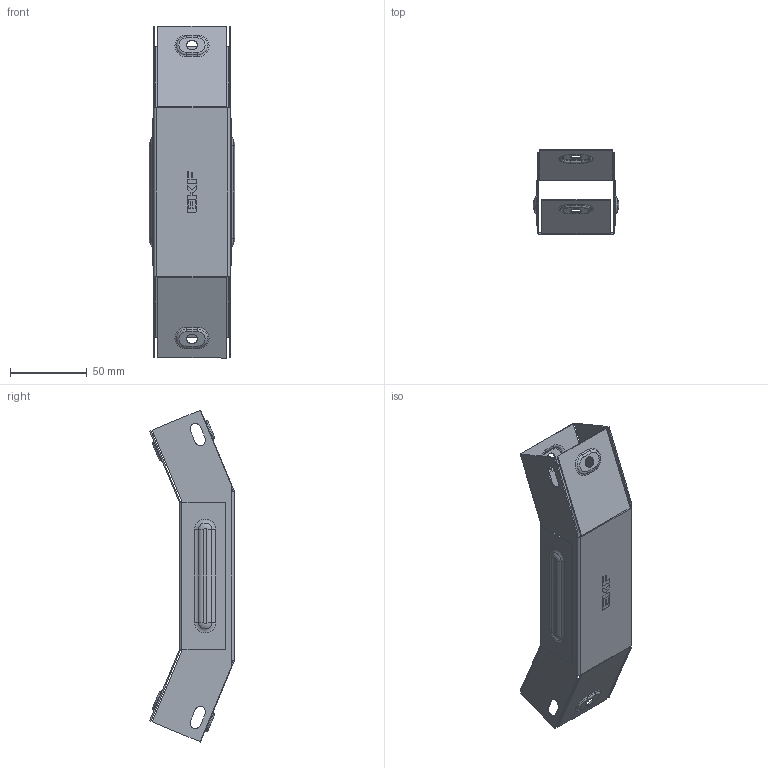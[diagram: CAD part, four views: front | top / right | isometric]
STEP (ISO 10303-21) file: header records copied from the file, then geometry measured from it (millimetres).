
FILE_DESCRIPTION (( 'STEP AP214' ), '1' );
FILE_NAME ('vi453550_捘.STEP', '2019-06-10T08:26:39', ( '砐錪賧瘔蠈錪 Windows' ), ( '' ), 'SwSTEP 2.0', 'SolidWorks 2018', '' );
FILE_SCHEMA (( 'AUTOMOTIVE_DESIGN' ));
Length unit declared in the file: millimetre
Products named in the file (1): vi453550_捘
Bounding box: 55.6 x 54.93 x 215.77 mm (x, y, z)
Volume: 31708.7 mm3; surface area: 80817.4 mm2
Topology: 2 solids, 2 shells, 416 faces, 1056 edges, 672 vertices
Faces by surface type: plane 222, cylinder 112, torus 64, bspline 18
Entity records: 13420 total; most frequent: CARTESIAN_POINT 3164, DIRECTION 2138, ORIENTED_EDGE 2112, EDGE_CURVE 1056, AXIS2_PLACEMENT_3D 719, VECTOR 700, LINE 700, VERTEX_POINT 672
